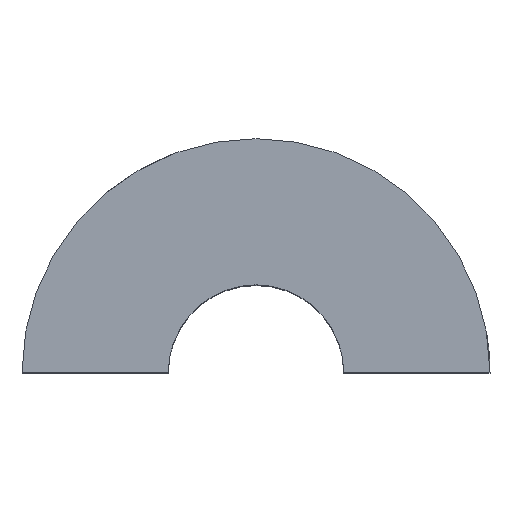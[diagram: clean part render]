
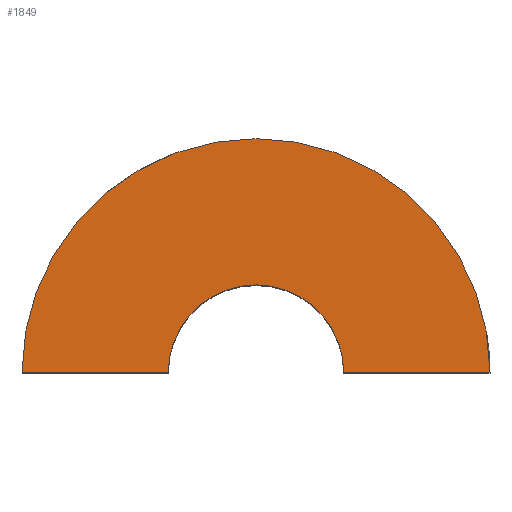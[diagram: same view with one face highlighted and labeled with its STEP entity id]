
A CAD part, top view. The second image highlights one B-rep face of the part: STEP entity #1849.
In plain terms, the highlighted planar face has unit normal (0, 0, 1).
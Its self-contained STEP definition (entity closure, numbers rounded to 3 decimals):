
#44 = VERTEX_POINT('',#45);
#45 = CARTESIAN_POINT('',(-120.,0.,105.));
#54 = PLANE('',#55);
#55 = AXIS2_PLACEMENT_3D('',#56,#57,#58);
#56 = CARTESIAN_POINT('',(-150.,0.,-150.));
#57 = DIRECTION('',(0.,1.,0.));
#58 = DIRECTION('',(0.,0.,1.));
#65 = CYLINDRICAL_SURFACE('',#66,120.);
#66 = AXIS2_PLACEMENT_3D('',#67,#68,#69);
#67 = CARTESIAN_POINT('',(0.,0.,-95.));
#68 = DIRECTION('',(-0.,-0.,-1.));
#69 = DIRECTION('',(1.,0.,0.));
#76 = EDGE_CURVE('',#44,#77,#79,.T.);
#77 = VERTEX_POINT('',#78);
#78 = CARTESIAN_POINT('',(-45.,0.,105.));
#79 = SURFACE_CURVE('',#80,(#84,#90),.PCURVE_S1.);
#80 = LINE('',#81,#82);
#81 = CARTESIAN_POINT('',(-75.,0.,105.));
#82 = VECTOR('',#83,1.);
#83 = DIRECTION('',(1.,0.,0.));
#84 = PCURVE('',#54,#85);
#85 = DEFINITIONAL_REPRESENTATION('',(#86),#89);
#86 = B_SPLINE_CURVE_WITH_KNOTS('',1,(#87,#88),.UNSPECIFIED.,.F.,.F.,(2,
    2),(-45.,195.),.PIECEWISE_BEZIER_KNOTS.);
#87 = CARTESIAN_POINT('',(255.,30.));
#88 = CARTESIAN_POINT('',(255.,270.));
#89 = ( GEOMETRIC_REPRESENTATION_CONTEXT(2) 
PARAMETRIC_REPRESENTATION_CONTEXT() REPRESENTATION_CONTEXT('2D SPACE',''
  ) );
#90 = PCURVE('',#91,#96);
#91 = PLANE('',#92);
#92 = AXIS2_PLACEMENT_3D('',#93,#94,#95);
#93 = CARTESIAN_POINT('',(0.,0.,105.));
#94 = DIRECTION('',(0.,0.,1.));
#95 = DIRECTION('',(1.,0.,0.));
#96 = DEFINITIONAL_REPRESENTATION('',(#97),#100);
#97 = B_SPLINE_CURVE_WITH_KNOTS('',1,(#98,#99),.UNSPECIFIED.,.F.,.F.,(2,
    2),(-45.,195.),.PIECEWISE_BEZIER_KNOTS.);
#98 = CARTESIAN_POINT('',(-120.,0.));
#99 = CARTESIAN_POINT('',(120.,0.));
#100 = ( GEOMETRIC_REPRESENTATION_CONTEXT(2) 
PARAMETRIC_REPRESENTATION_CONTEXT() REPRESENTATION_CONTEXT('2D SPACE',''
  ) );
#117 = CYLINDRICAL_SURFACE('',#118,45.);
#118 = AXIS2_PLACEMENT_3D('',#119,#120,#121);
#119 = CARTESIAN_POINT('',(0.,0.,-95.));
#120 = DIRECTION('',(-0.,-0.,-1.));
#121 = DIRECTION('',(1.,0.,0.));
#526 = VERTEX_POINT('',#527);
#527 = CARTESIAN_POINT('',(120.,0.,105.));
#541 = PLANE('',#542);
#542 = AXIS2_PLACEMENT_3D('',#543,#544,#545);
#543 = CARTESIAN_POINT('',(-150.,0.,-150.));
#544 = DIRECTION('',(0.,1.,0.));
#545 = DIRECTION('',(0.,0.,1.));
#553 = EDGE_CURVE('',#526,#44,#554,.T.);
#554 = SURFACE_CURVE('',#555,(#560,#567),.PCURVE_S1.);
#555 = CIRCLE('',#556,120.);
#556 = AXIS2_PLACEMENT_3D('',#557,#558,#559);
#557 = CARTESIAN_POINT('',(0.,0.,105.));
#558 = DIRECTION('',(0.,0.,1.));
#559 = DIRECTION('',(1.,0.,0.));
#560 = PCURVE('',#65,#561);
#561 = DEFINITIONAL_REPRESENTATION('',(#562),#566);
#562 = LINE('',#563,#564);
#563 = CARTESIAN_POINT('',(-0.,-200.));
#564 = VECTOR('',#565,1.);
#565 = DIRECTION('',(-1.,0.));
#566 = ( GEOMETRIC_REPRESENTATION_CONTEXT(2) 
PARAMETRIC_REPRESENTATION_CONTEXT() REPRESENTATION_CONTEXT('2D SPACE',''
  ) );
#567 = PCURVE('',#91,#568);
#568 = DEFINITIONAL_REPRESENTATION('',(#569),#573);
#569 = CIRCLE('',#570,120.);
#570 = AXIS2_PLACEMENT_2D('',#571,#572);
#571 = CARTESIAN_POINT('',(0.,0.));
#572 = DIRECTION('',(1.,0.));
#573 = ( GEOMETRIC_REPRESENTATION_CONTEXT(2) 
PARAMETRIC_REPRESENTATION_CONTEXT() REPRESENTATION_CONTEXT('2D SPACE',''
  ) );
#1805 = VERTEX_POINT('',#1806);
#1806 = CARTESIAN_POINT('',(45.,0.,105.));
#1827 = EDGE_CURVE('',#1805,#77,#1828,.T.);
#1828 = SURFACE_CURVE('',#1829,(#1834,#1841),.PCURVE_S1.);
#1829 = CIRCLE('',#1830,45.);
#1830 = AXIS2_PLACEMENT_3D('',#1831,#1832,#1833);
#1831 = CARTESIAN_POINT('',(0.,0.,105.));
#1832 = DIRECTION('',(0.,0.,1.));
#1833 = DIRECTION('',(1.,0.,0.));
#1834 = PCURVE('',#117,#1835);
#1835 = DEFINITIONAL_REPRESENTATION('',(#1836),#1840);
#1836 = LINE('',#1837,#1838);
#1837 = CARTESIAN_POINT('',(-0.,-200.));
#1838 = VECTOR('',#1839,1.);
#1839 = DIRECTION('',(-1.,0.));
#1840 = ( GEOMETRIC_REPRESENTATION_CONTEXT(2) 
PARAMETRIC_REPRESENTATION_CONTEXT() REPRESENTATION_CONTEXT('2D SPACE',''
  ) );
#1841 = PCURVE('',#91,#1842);
#1842 = DEFINITIONAL_REPRESENTATION('',(#1843),#1847);
#1843 = CIRCLE('',#1844,45.);
#1844 = AXIS2_PLACEMENT_2D('',#1845,#1846);
#1845 = CARTESIAN_POINT('',(0.,0.));
#1846 = DIRECTION('',(1.,0.));
#1847 = ( GEOMETRIC_REPRESENTATION_CONTEXT(2) 
PARAMETRIC_REPRESENTATION_CONTEXT() REPRESENTATION_CONTEXT('2D SPACE',''
  ) );
#1849 = ADVANCED_FACE('',(#1850),#91,.T.);
#1850 = FACE_BOUND('',#1851,.T.);
#1851 = EDGE_LOOP('',(#1852,#1871,#1872,#1873));
#1852 = ORIENTED_EDGE('',*,*,#1853,.T.);
#1853 = EDGE_CURVE('',#1805,#526,#1854,.T.);
#1854 = SURFACE_CURVE('',#1855,(#1859,#1865),.PCURVE_S1.);
#1855 = LINE('',#1856,#1857);
#1856 = CARTESIAN_POINT('',(-75.,0.,105.));
#1857 = VECTOR('',#1858,1.);
#1858 = DIRECTION('',(1.,0.,0.));
#1859 = PCURVE('',#91,#1860);
#1860 = DEFINITIONAL_REPRESENTATION('',(#1861),#1864);
#1861 = B_SPLINE_CURVE_WITH_KNOTS('',1,(#1862,#1863),.UNSPECIFIED.,.F.,
  .F.,(2,2),(-45.,195.),.PIECEWISE_BEZIER_KNOTS.);
#1862 = CARTESIAN_POINT('',(-120.,0.));
#1863 = CARTESIAN_POINT('',(120.,0.));
#1864 = ( GEOMETRIC_REPRESENTATION_CONTEXT(2) 
PARAMETRIC_REPRESENTATION_CONTEXT() REPRESENTATION_CONTEXT('2D SPACE',''
  ) );
#1865 = PCURVE('',#541,#1866);
#1866 = DEFINITIONAL_REPRESENTATION('',(#1867),#1870);
#1867 = B_SPLINE_CURVE_WITH_KNOTS('',1,(#1868,#1869),.UNSPECIFIED.,.F.,
  .F.,(2,2),(-45.,195.),.PIECEWISE_BEZIER_KNOTS.);
#1868 = CARTESIAN_POINT('',(255.,30.));
#1869 = CARTESIAN_POINT('',(255.,270.));
#1870 = ( GEOMETRIC_REPRESENTATION_CONTEXT(2) 
PARAMETRIC_REPRESENTATION_CONTEXT() REPRESENTATION_CONTEXT('2D SPACE',''
  ) );
#1871 = ORIENTED_EDGE('',*,*,#553,.T.);
#1872 = ORIENTED_EDGE('',*,*,#76,.T.);
#1873 = ORIENTED_EDGE('',*,*,#1827,.F.);
